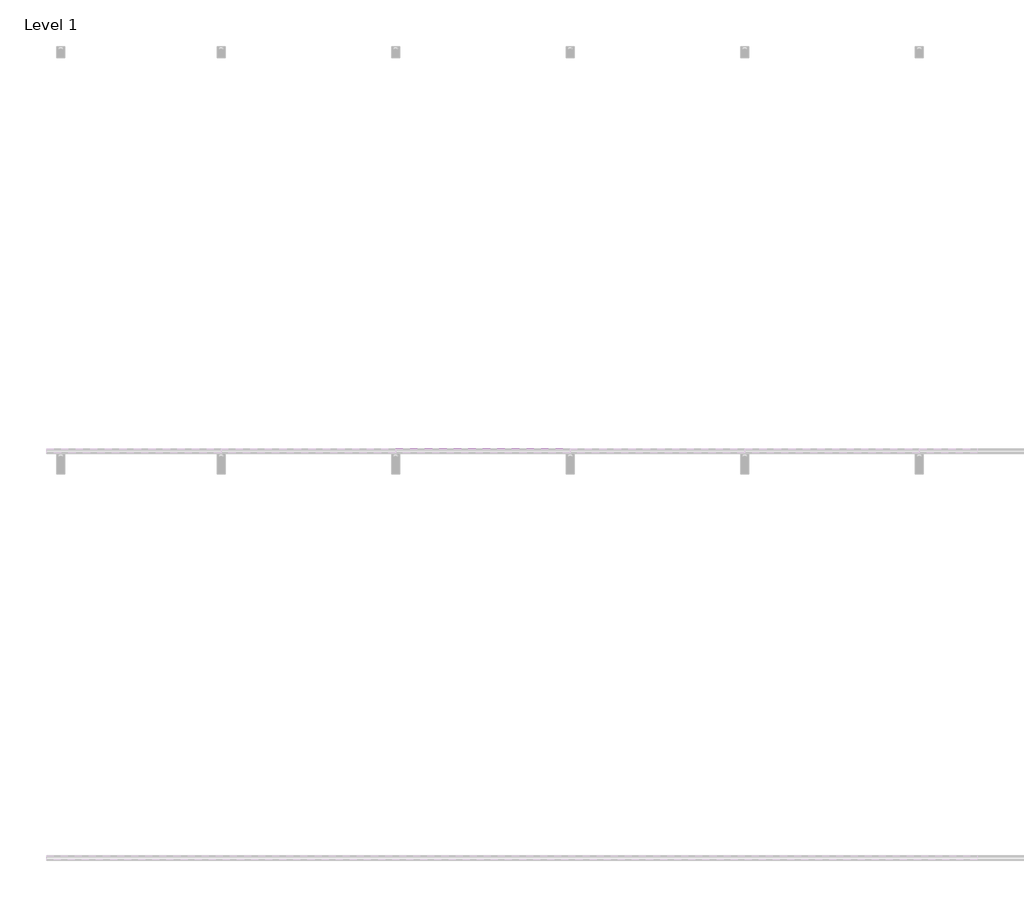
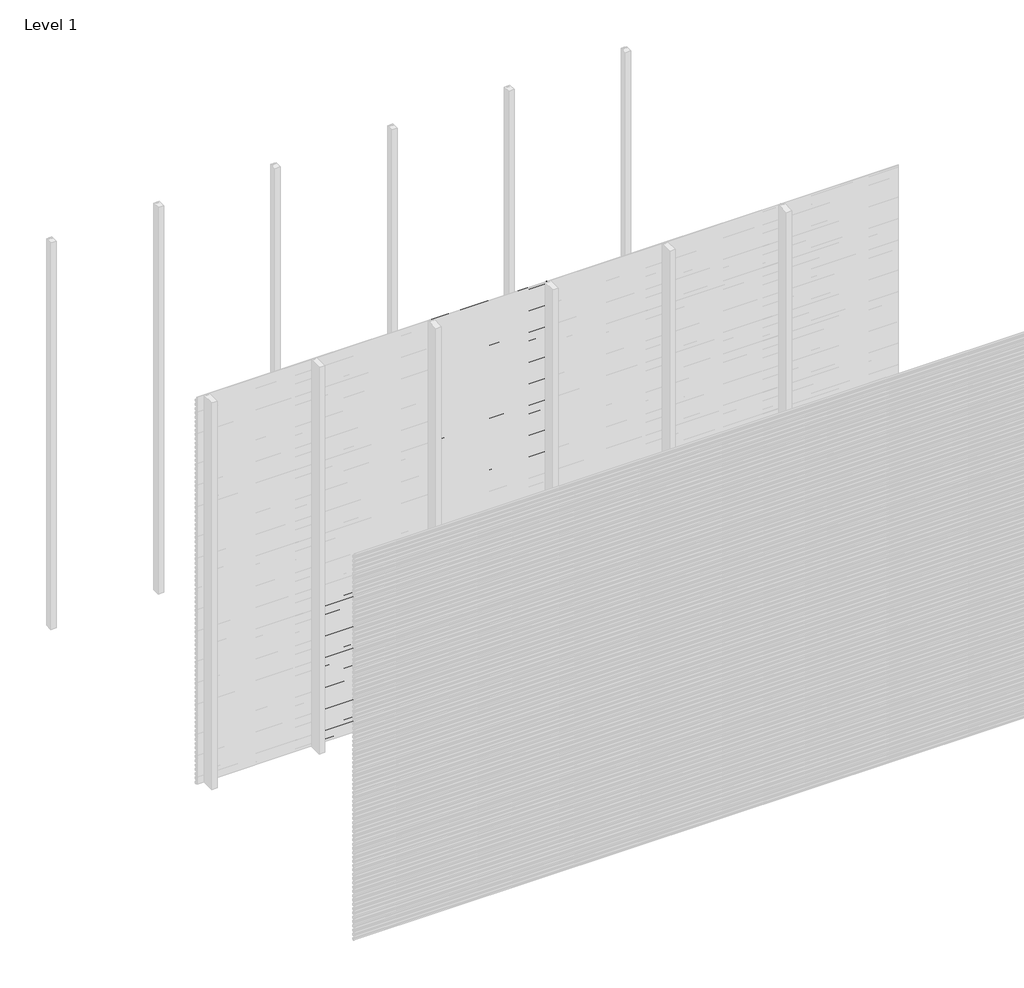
# One storey, part 35 of 96: 77 proxies.
"""IFC4 building model written with IfcOpenShell, lengths in millimetres."""

import ifcopenshell
import ifcopenshell.guid

model = None  # the IFC model being written
_history = None  # IfcOwnerHistory: only IFC2X3 demands one
_inside = {}  # id of a spatial element -> (the spatial element, [elements in it])
_under = {}  # id of a project, library or spatial element -> (it, [spatial elements below it])
_declared = {}  # id of a project -> (the project, [libraries it declares])
_typed = {}  # id of a type object -> (the type object, [elements of that type])
_made_of = {}  # id of a material, layer set ... -> (it, [elements and type objects made of it])


def new_model(schema):
    """Start an empty IFC model of exactly this schema.

    Asked for "IFC4X3", IfcOpenShell would pick the latest addendum, in which some entities
    have other attributes; the version numbers below select the first issue.
    IFC2X3 requires an IfcOwnerHistory on every rooted entity: one is made here for all.
    """
    global model, _history
    if schema == "IFC4X3":
        model = ifcopenshell.file(schema_version=(4, 3, 0, 0))
    else:
        model = ifcopenshell.file(schema=schema)
    _inside.clear()
    _under.clear()
    _declared.clear()
    _typed.clear()
    _made_of.clear()
    _history = None
    if model.schema == "IFC2X3":
        org = make("IfcOrganization", Name="unknown")
        user = make(
            "IfcPersonAndOrganization",
            ThePerson=make("IfcPerson", FamilyName="unknown"),
            TheOrganization=org,
        )
        app = make(
            "IfcApplication",
            ApplicationDeveloper=org,
            Version="unknown",
            ApplicationFullName="unknown",
            ApplicationIdentifier="unknown",
        )
        _history = make(
            "IfcOwnerHistory",
            OwningUser=user,
            OwningApplication=app,
            ChangeAction="ADDED",
            CreationDate=0,
        )
    return model


def make(cls, **values):
    """One entity of the class cls with the attributes given. An attribute that is None is left unset."""
    return model.create_entity(
        cls, **{name: value for name, value in values.items() if value is not None}
    )


def rooted(cls, **values):
    """An entity with a GlobalId (a new one), such as an element, a storey or a relation."""
    return make(cls, GlobalId=ifcopenshell.guid.new(), OwnerHistory=_history, **values)


def si_unit(unit_type, name, prefix=None):
    """IfcSIUnit, for example si_unit("LENGTHUNIT", "METRE", prefix="MILLI")."""
    return make("IfcSIUnit", UnitType=unit_type, Prefix=prefix, Name=name)


def assignment(units):
    """IfcUnitAssignment: the units of a project."""
    return None if units is None else make("IfcUnitAssignment", Units=units)


def point(xyz):
    """IfcCartesianPoint."""
    return None if xyz is None else make("IfcCartesianPoint", Coordinates=xyz)


def direction(xyz):
    """IfcDirection."""
    return None if xyz is None else make("IfcDirection", DirectionRatios=xyz)


def frame(location, z_axis=None, x_axis=None):
    """IfcAxis2Placement3D, a coordinate frame: its origin and axes. An axis left out is left unset."""
    return make(
        "IfcAxis2Placement3D",
        Location=point(location),
        Axis=direction(z_axis),
        RefDirection=direction(x_axis),
    )


def origin():
    """The frame at (0, 0, 0) with its axes left unset."""
    return frame((0.0, 0.0, 0.0))


def place(relative_to, where):
    """IfcLocalPlacement: puts the frame where relative to a parent placement (None: the world)."""
    return make(
        "IfcLocalPlacement", PlacementRelTo=relative_to, RelativePlacement=where
    )


def context(
    kind, dimensions, precision=None, world=None, true_north=None, identifier=None
):
    """IfcGeometricRepresentationContext, for example the 3D "Model" context."""
    return make(
        "IfcGeometricRepresentationContext",
        ContextIdentifier=identifier,
        ContextType=kind,
        CoordinateSpaceDimension=dimensions,
        Precision=precision,
        WorldCoordinateSystem=world,
        TrueNorth=true_north,
    )


def project(units=None, contexts=None):
    """IfcProject with its units and contexts."""
    return rooted(
        "IfcProject",
        Name="project",
        RepresentationContexts=contexts,
        UnitsInContext=assignment(units),
    )


def spatial(cls, under=None, at=None, **own):
    """A site, building, storey or space (cls), placed at a placement, below another one or the project."""
    s = rooted(cls, ObjectPlacement=at, **own)
    if under is not None:
        _under.setdefault(under.id(), (under, []))[1].append(s)
    return s


def polyline(points):
    """IfcPolyline through the points."""
    return make("IfcPolyline", Points=[point(p) for p in points])


def outline(outer, holes=None, kind="AREA"):
    """IfcArbitraryClosedProfileDef: a profile drawn as a closed curve; with holes, ...WithVoids."""
    if holes is None:
        return make("IfcArbitraryClosedProfileDef", ProfileType=kind, OuterCurve=outer)
    return make(
        "IfcArbitraryProfileDefWithVoids",
        ProfileType=kind,
        OuterCurve=outer,
        InnerCurves=holes,
    )


def extrude(swept, where, along, depth):
    """IfcExtrudedAreaSolid: the profile swept, set in the frame where, extruded along a direction by depth."""
    return make(
        "IfcExtrudedAreaSolid",
        SweptArea=swept,
        Position=where,
        ExtrudedDirection=direction(along),
        Depth=depth,
    )


def shape(context_of_items, identifier, shape_type, items):
    """IfcShapeRepresentation: the items that make up one representation, for example the "Body"."""
    return make(
        "IfcShapeRepresentation",
        ContextOfItems=context_of_items,
        RepresentationIdentifier=identifier,
        RepresentationType=shape_type,
        Items=items,
    )


def made_of(thing, what):
    """Note that an element or type object is made of a material, layer set ...; save() writes the relation."""
    if what is not None:
        _made_of.setdefault(what.id(), (what, []))[1].append(thing)
    return thing


def element(
    cls,
    number,
    at=None,
    inside=None,
    cuts=None,
    type_object=None,
    material=None,
    context=None,
    identifier="Body",
    shape_type=None,
    held_by="IfcProductDefinitionShape",
    body=None,
    shapes=None,
    **own,
):
    """One element of the class cls, such as IfcWall. Its Tag is "e" and its number.

    at: its placement. inside: the storey or other place that contains it. cuts: it is an
    opening in that element (IfcRelVoidsElement). A single representation is given by context,
    identifier, shape_type and body (its items); several are given by shapes. held_by: the class
    of the entity that holds the representations. save() writes the other relations.
    """
    e = rooted(cls, Tag="e%d" % number, ObjectPlacement=at, **own)
    if body is not None:
        shapes = [shape(context, identifier, shape_type, body)]
    if shapes is not None:
        e.Representation = make(held_by, Representations=shapes)
    if inside is not None:
        _inside.setdefault(inside.id(), (inside, []))[1].append(e)
    if cuts is not None:
        rooted(
            "IfcRelVoidsElement", RelatingBuildingElement=cuts, RelatedOpeningElement=e
        )
    if type_object is not None:
        _typed.setdefault(type_object.id(), (type_object, []))[1].append(e)
    return made_of(e, material)


def aggregate(whole, parts):
    """IfcRelAggregates: a whole, such as a stair, and the parts it consists of."""
    return rooted("IfcRelAggregates", RelatingObject=whole, RelatedObjects=parts)


def save(model, path):
    """Write the relations noted so far, then the file.

    IfcRelAggregates (storeys below a building ...), IfcRelContainedInSpatialStructure (elements
    in a storey), IfcRelDefinesByType, IfcRelAssociatesMaterial and IfcRelDeclares: one each for
    every whole, place, type object, material and project.
    """
    for whole, parts in _under.values():
        aggregate(whole, parts)
    for where, things in _inside.values():
        rooted(
            "IfcRelContainedInSpatialStructure",
            RelatedElements=things,
            RelatingStructure=where,
        )
    for kind, things in _typed.values():
        rooted("IfcRelDefinesByType", RelatedObjects=things, RelatingType=kind)
    for what, things in _made_of.values():
        rooted("IfcRelAssociatesMaterial", RelatedObjects=things, RelatingMaterial=what)
    for by, libraries in _declared.values():
        rooted("IfcRelDeclares", RelatingContext=by, RelatedDefinitions=libraries)
    model.write(path)


model = new_model("IFC4")

# Units and contexts
model_context = context("Model", 3, world=origin())
ifc_project = project(units=[si_unit("LENGTHUNIT", "METRE", prefix="MILLI")], contexts=[model_context])

# Site, building, storey
site = spatial("IfcSite", under=ifc_project)
building = spatial("IfcBuilding", under=site)
storey = spatial("IfcBuildingStorey", under=building, Name="Level 1", Elevation=0.0)

# Proxies
placement = place(None, origin())
element("IfcBuildingElementProxy", 1, Name="Wall Sweeps", at=placement, inside=storey, context=model_context, shape_type="SweptSolid", body=[
    extrude(outline(polyline([(-35977.6, 1140.2655033), (-35977.6, 1125.9779188), (-35982.4114965, 1123.2), (-35982.4114965, 1124.4701706), (-35978.85, 1126.5264016), (-35978.85, 1139.5437382), (-35998.0, 1150.6000799), (-35998.0, 1165.5), (-35996.75, 1165.5), (-35996.75, 1151.3217609), (-35977.6, 1140.2655033)])), frame((857.1428571, 0.0, 0.0), z_axis=(1.0, 0.0, 0.0), x_axis=(0.0, 1.0, 0.0)), (0.0, 0.0, 1.0), 857.1428571),
])
element("IfcBuildingElementProxy", 2, Name="Wall Sweeps", at=placement, inside=storey, context=model_context, shape_type="SweptSolid", body=[
    extrude(outline(polyline([(-35977.6, 1106.9655033), (-35977.6, 1092.6779188), (-35982.4114965, 1089.9), (-35982.4114965, 1091.1701706), (-35978.85, 1093.2264016), (-35978.85, 1106.2437382), (-35998.0, 1117.3000799), (-35998.0, 1132.2), (-35996.75, 1132.2), (-35996.75, 1118.0217609), (-35977.6, 1106.9655033)])), frame((857.1428571, 0.0, 0.0), z_axis=(1.0, 0.0, 0.0), x_axis=(0.0, 1.0, 0.0)), (0.0, 0.0, 1.0), 857.1428571),
])
element("IfcBuildingElementProxy", 3, Name="Wall Sweeps", at=placement, inside=storey, context=model_context, shape_type="SweptSolid", body=[
    extrude(outline(polyline([(-35977.6, 1073.6655033), (-35977.6, 1059.3779188), (-35982.4114965, 1056.6), (-35982.4114965, 1057.8701706), (-35978.85, 1059.9264016), (-35978.85, 1072.9437382), (-35998.0, 1084.0000799), (-35998.0, 1098.9), (-35996.75, 1098.9), (-35996.75, 1084.7217609), (-35977.6, 1073.6655033)])), frame((857.1428571, 0.0, 0.0), z_axis=(1.0, 0.0, 0.0), x_axis=(0.0, 1.0, 0.0)), (0.0, 0.0, 1.0), 857.1428571),
])
element("IfcBuildingElementProxy", 4, Name="Wall Sweeps", at=placement, inside=storey, context=model_context, shape_type="SweptSolid", body=[
    extrude(outline(polyline([(-35977.6, 1040.3655033), (-35977.6, 1026.0779188), (-35982.4114965, 1023.3), (-35982.4114965, 1024.5701706), (-35978.85, 1026.6264016), (-35978.85, 1039.6437382), (-35998.0, 1050.7000799), (-35998.0, 1065.6), (-35996.75, 1065.6), (-35996.75, 1051.4217609), (-35977.6, 1040.3655033)])), frame((857.1428571, 0.0, 0.0), z_axis=(1.0, 0.0, 0.0), x_axis=(0.0, 1.0, 0.0)), (0.0, 0.0, 1.0), 857.1428571),
])
element("IfcBuildingElementProxy", 5, Name="Wall Sweeps", at=placement, inside=storey, context=model_context, shape_type="SweptSolid", body=[
    extrude(outline(polyline([(-35977.6, 1007.0655033), (-35977.6, 992.7779188), (-35982.4114965, 990.0), (-35982.4114965, 991.2701706), (-35978.85, 993.3264016), (-35978.85, 1006.3437382), (-35998.0, 1017.4000799), (-35998.0, 1032.3), (-35996.75, 1032.3), (-35996.75, 1018.1217609), (-35977.6, 1007.0655033)])), frame((857.1428571, 0.0, 0.0), z_axis=(1.0, 0.0, 0.0), x_axis=(0.0, 1.0, 0.0)), (0.0, 0.0, 1.0), 857.1428571),
])
element("IfcBuildingElementProxy", 6, Name="Wall Sweeps", at=placement, inside=storey, context=model_context, shape_type="SweptSolid", body=[
    extrude(outline(polyline([(-35977.6, 973.7655033), (-35977.6, 959.4779188), (-35982.4114965, 956.7), (-35982.4114965, 957.9701706), (-35978.85, 960.0264016), (-35978.85, 973.0437382), (-35998.0, 984.1000799), (-35998.0, 999.0), (-35996.75, 999.0), (-35996.75, 984.8217609), (-35977.6, 973.7655033)])), frame((857.1428571, 0.0, 0.0), z_axis=(1.0, 0.0, 0.0), x_axis=(0.0, 1.0, 0.0)), (0.0, 0.0, 1.0), 857.1428571),
])
element("IfcBuildingElementProxy", 7, Name="Wall Sweeps", at=placement, inside=storey, context=model_context, shape_type="SweptSolid", body=[
    extrude(outline(polyline([(-35977.6, 940.4655033), (-35977.6, 926.1779188), (-35982.4114965, 923.4), (-35982.4114965, 924.6701706), (-35978.85, 926.7264016), (-35978.85, 939.7437382), (-35998.0, 950.8000799), (-35998.0, 965.7), (-35996.75, 965.7), (-35996.75, 951.5217609), (-35977.6, 940.4655033)])), frame((857.1428571, 0.0, 0.0), z_axis=(1.0, 0.0, 0.0), x_axis=(0.0, 1.0, 0.0)), (0.0, 0.0, 1.0), 857.1428571),
])
element("IfcBuildingElementProxy", 8, Name="Wall Sweeps", at=placement, inside=storey, context=model_context, shape_type="SweptSolid", body=[
    extrude(outline(polyline([(-35977.6, 907.1655033), (-35977.6, 892.8779188), (-35982.4114965, 890.1), (-35982.4114965, 891.3701706), (-35978.85, 893.4264016), (-35978.85, 906.4437382), (-35998.0, 917.5000799), (-35998.0, 932.4), (-35996.75, 932.4), (-35996.75, 918.2217609), (-35977.6, 907.1655033)])), frame((857.1428571, 0.0, 0.0), z_axis=(1.0, 0.0, 0.0), x_axis=(0.0, 1.0, 0.0)), (0.0, 0.0, 1.0), 857.1428571),
])
element("IfcBuildingElementProxy", 9, Name="Wall Sweeps", at=placement, inside=storey, context=model_context, shape_type="SweptSolid", body=[
    extrude(outline(polyline([(-35977.6, 873.8655033), (-35977.6, 859.5779188), (-35982.4114965, 856.8), (-35982.4114965, 858.0701706), (-35978.85, 860.1264016), (-35978.85, 873.1437382), (-35998.0, 884.2000799), (-35998.0, 899.1), (-35996.75, 899.1), (-35996.75, 884.9217609), (-35977.6, 873.8655033)])), frame((857.1428571, 0.0, 0.0), z_axis=(1.0, 0.0, 0.0), x_axis=(0.0, 1.0, 0.0)), (0.0, 0.0, 1.0), 857.1428571),
])
element("IfcBuildingElementProxy", 10, Name="Wall Sweeps", at=placement, inside=storey, context=model_context, shape_type="SweptSolid", body=[
    extrude(outline(polyline([(-35977.6, 840.5655033), (-35977.6, 826.2779188), (-35982.4114965, 823.5), (-35982.4114965, 824.7701706), (-35978.85, 826.8264016), (-35978.85, 839.8437382), (-35998.0, 850.9000799), (-35998.0, 865.8), (-35996.75, 865.8), (-35996.75, 851.6217609), (-35977.6, 840.5655033)])), frame((857.1428571, 0.0, 0.0), z_axis=(1.0, 0.0, 0.0), x_axis=(0.0, 1.0, 0.0)), (0.0, 0.0, 1.0), 857.1428571),
])
element("IfcBuildingElementProxy", 11, Name="Wall Sweeps", at=placement, inside=storey, context=model_context, shape_type="SweptSolid", body=[
    extrude(outline(polyline([(-35977.6, 807.2655033), (-35977.6, 792.9779188), (-35982.4114965, 790.2), (-35982.4114965, 791.4701706), (-35978.85, 793.5264016), (-35978.85, 806.5437382), (-35998.0, 817.6000799), (-35998.0, 832.5), (-35996.75, 832.5), (-35996.75, 818.3217609), (-35977.6, 807.2655033)])), frame((857.1428571, 0.0, 0.0), z_axis=(1.0, 0.0, 0.0), x_axis=(0.0, 1.0, 0.0)), (0.0, 0.0, 1.0), 857.1428571),
])
element("IfcBuildingElementProxy", 12, Name="Wall Sweeps", at=placement, inside=storey, context=model_context, shape_type="SweptSolid", body=[
    extrude(outline(polyline([(-35977.6, 773.9655033), (-35977.6, 759.6779188), (-35982.4114965, 756.9), (-35982.4114965, 758.1701706), (-35978.85, 760.2264016), (-35978.85, 773.2437382), (-35998.0, 784.3000799), (-35998.0, 799.2), (-35996.75, 799.2), (-35996.75, 785.0217609), (-35977.6, 773.9655033)])), frame((857.1428571, 0.0, 0.0), z_axis=(1.0, 0.0, 0.0), x_axis=(0.0, 1.0, 0.0)), (0.0, 0.0, 1.0), 857.1428571),
])
element("IfcBuildingElementProxy", 13, Name="Wall Sweeps", at=placement, inside=storey, context=model_context, shape_type="SweptSolid", body=[
    extrude(outline(polyline([(-35977.6, 740.6655033), (-35977.6, 726.3779188), (-35982.4114965, 723.6), (-35982.4114965, 724.8701706), (-35978.85, 726.9264016), (-35978.85, 739.9437382), (-35998.0, 751.0000799), (-35998.0, 765.9), (-35996.75, 765.9), (-35996.75, 751.7217609), (-35977.6, 740.6655033)])), frame((857.1428571, 0.0, 0.0), z_axis=(1.0, 0.0, 0.0), x_axis=(0.0, 1.0, 0.0)), (0.0, 0.0, 1.0), 857.1428571),
])
element("IfcBuildingElementProxy", 14, Name="Wall Sweeps", at=placement, inside=storey, context=model_context, shape_type="SweptSolid", body=[
    extrude(outline(polyline([(-35977.6, 707.3655033), (-35977.6, 693.0779188), (-35982.4114965, 690.3), (-35982.4114965, 691.5701706), (-35978.85, 693.6264016), (-35978.85, 706.6437382), (-35998.0, 717.7000799), (-35998.0, 732.6), (-35996.75, 732.6), (-35996.75, 718.4217609), (-35977.6, 707.3655033)])), frame((857.1428571, 0.0, 0.0), z_axis=(1.0, 0.0, 0.0), x_axis=(0.0, 1.0, 0.0)), (0.0, 0.0, 1.0), 857.1428571),
])
element("IfcBuildingElementProxy", 15, Name="Wall Sweeps", at=placement, inside=storey, context=model_context, shape_type="SweptSolid", body=[
    extrude(outline(polyline([(-35977.6, 674.0655033), (-35977.6, 659.7779188), (-35982.4114965, 657.0), (-35982.4114965, 658.2701706), (-35978.85, 660.3264016), (-35978.85, 673.3437382), (-35998.0, 684.4000799), (-35998.0, 699.3), (-35996.75, 699.3), (-35996.75, 685.1217609), (-35977.6, 674.0655033)])), frame((857.1428571, 0.0, 0.0), z_axis=(1.0, 0.0, 0.0), x_axis=(0.0, 1.0, 0.0)), (0.0, 0.0, 1.0), 857.1428571),
])
element("IfcBuildingElementProxy", 16, Name="Wall Sweeps", at=placement, inside=storey, context=model_context, shape_type="SweptSolid", body=[
    extrude(outline(polyline([(-35977.6, 640.7655033), (-35977.6, 626.4779188), (-35982.4114965, 623.7), (-35982.4114965, 624.9701706), (-35978.85, 627.0264016), (-35978.85, 640.0437382), (-35998.0, 651.1000799), (-35998.0, 666.0), (-35996.75, 666.0), (-35996.75, 651.8217609), (-35977.6, 640.7655033)])), frame((857.1428571, 0.0, 0.0), z_axis=(1.0, 0.0, 0.0), x_axis=(0.0, 1.0, 0.0)), (0.0, 0.0, 1.0), 857.1428571),
])
element("IfcBuildingElementProxy", 17, Name="Wall Sweeps", at=placement, inside=storey, context=model_context, shape_type="SweptSolid", body=[
    extrude(outline(polyline([(-35977.6, 607.4655033), (-35977.6, 593.1779188), (-35982.4114965, 590.4), (-35982.4114965, 591.6701706), (-35978.85, 593.7264016), (-35978.85, 606.7437382), (-35998.0, 617.8000799), (-35998.0, 632.7), (-35996.75, 632.7), (-35996.75, 618.5217609), (-35977.6, 607.4655033)])), frame((857.1428571, 0.0, 0.0), z_axis=(1.0, 0.0, 0.0), x_axis=(0.0, 1.0, 0.0)), (0.0, 0.0, 1.0), 857.1428571),
])
element("IfcBuildingElementProxy", 18, Name="Wall Sweeps", at=placement, inside=storey, context=model_context, shape_type="SweptSolid", body=[
    extrude(outline(polyline([(-35977.6, 574.1655033), (-35977.6, 559.8779188), (-35982.4114965, 557.1), (-35982.4114965, 558.3701706), (-35978.85, 560.4264016), (-35978.85, 573.4437382), (-35998.0, 584.5000799), (-35998.0, 599.4), (-35996.75, 599.4), (-35996.75, 585.2217609), (-35977.6, 574.1655033)])), frame((857.1428571, 0.0, 0.0), z_axis=(1.0, 0.0, 0.0), x_axis=(0.0, 1.0, 0.0)), (0.0, 0.0, 1.0), 857.1428571),
])
element("IfcBuildingElementProxy", 19, Name="Wall Sweeps", at=placement, inside=storey, context=model_context, shape_type="SweptSolid", body=[
    extrude(outline(polyline([(-35977.6, 540.8655033), (-35977.6, 526.5779188), (-35982.4114965, 523.8), (-35982.4114965, 525.0701706), (-35978.85, 527.1264016), (-35978.85, 540.1437382), (-35998.0, 551.2000799), (-35998.0, 566.1), (-35996.75, 566.1), (-35996.75, 551.9217609), (-35977.6, 540.8655033)])), frame((857.1428571, 0.0, 0.0), z_axis=(1.0, 0.0, 0.0), x_axis=(0.0, 1.0, 0.0)), (0.0, 0.0, 1.0), 857.1428571),
])
element("IfcBuildingElementProxy", 20, Name="Wall Sweeps", at=placement, inside=storey, context=model_context, shape_type="SweptSolid", body=[
    extrude(outline(polyline([(-35977.6, 507.5655033), (-35977.6, 493.2779188), (-35982.4114965, 490.5), (-35982.4114965, 491.7701706), (-35978.85, 493.8264016), (-35978.85, 506.8437382), (-35998.0, 517.9000799), (-35998.0, 532.8), (-35996.75, 532.8), (-35996.75, 518.6217609), (-35977.6, 507.5655033)])), frame((857.1428571, 0.0, 0.0), z_axis=(1.0, 0.0, 0.0), x_axis=(0.0, 1.0, 0.0)), (0.0, 0.0, 1.0), 857.1428571),
])
element("IfcBuildingElementProxy", 21, Name="Wall Sweeps", at=placement, inside=storey, context=model_context, shape_type="SweptSolid", body=[
    extrude(outline(polyline([(-35977.6, 474.2655033), (-35977.6, 459.9779188), (-35982.4114965, 457.2), (-35982.4114965, 458.4701706), (-35978.85, 460.5264016), (-35978.85, 473.5437382), (-35998.0, 484.6000799), (-35998.0, 499.5), (-35996.75, 499.5), (-35996.75, 485.3217609), (-35977.6, 474.2655033)])), frame((857.1428571, 0.0, 0.0), z_axis=(1.0, 0.0, 0.0), x_axis=(0.0, 1.0, 0.0)), (0.0, 0.0, 1.0), 857.1428571),
])
element("IfcBuildingElementProxy", 22, Name="Wall Sweeps", at=placement, inside=storey, context=model_context, shape_type="SweptSolid", body=[
    extrude(outline(polyline([(-35977.6, 440.9655033), (-35977.6, 426.6779188), (-35982.4114965, 423.9), (-35982.4114965, 425.1701706), (-35978.85, 427.2264016), (-35978.85, 440.2437382), (-35998.0, 451.3000799), (-35998.0, 466.2), (-35996.75, 466.2), (-35996.75, 452.0217609), (-35977.6, 440.9655033)])), frame((857.1428571, 0.0, 0.0), z_axis=(1.0, 0.0, 0.0), x_axis=(0.0, 1.0, 0.0)), (0.0, 0.0, 1.0), 857.1428571),
])
element("IfcBuildingElementProxy", 23, Name="Wall Sweeps", at=placement, inside=storey, context=model_context, shape_type="SweptSolid", body=[
    extrude(outline(polyline([(-35977.6, 407.6655033), (-35977.6, 393.3779188), (-35982.4114965, 390.6), (-35982.4114965, 391.8701706), (-35978.85, 393.9264016), (-35978.85, 406.9437382), (-35998.0, 418.0000799), (-35998.0, 432.9), (-35996.75, 432.9), (-35996.75, 418.7217609), (-35977.6, 407.6655033)])), frame((857.1428571, 0.0, 0.0), z_axis=(1.0, 0.0, 0.0), x_axis=(0.0, 1.0, 0.0)), (0.0, 0.0, 1.0), 857.1428571),
])
element("IfcBuildingElementProxy", 24, Name="Wall Sweeps", at=placement, inside=storey, context=model_context, shape_type="SweptSolid", body=[
    extrude(outline(polyline([(-35977.6, 374.3655033), (-35977.6, 360.0779188), (-35982.4114965, 357.3), (-35982.4114965, 358.5701706), (-35978.85, 360.6264016), (-35978.85, 373.6437382), (-35998.0, 384.7000799), (-35998.0, 399.6), (-35996.75, 399.6), (-35996.75, 385.4217609), (-35977.6, 374.3655033)])), frame((857.1428571, 0.0, 0.0), z_axis=(1.0, 0.0, 0.0), x_axis=(0.0, 1.0, 0.0)), (0.0, 0.0, 1.0), 857.1428571),
])
element("IfcBuildingElementProxy", 25, Name="Wall Sweeps", at=placement, inside=storey, context=model_context, shape_type="SweptSolid", body=[
    extrude(outline(polyline([(-35977.6, 341.0655033), (-35977.6, 326.7779188), (-35982.4114965, 324.0), (-35982.4114965, 325.2701706), (-35978.85, 327.3264016), (-35978.85, 340.3437382), (-35998.0, 351.4000799), (-35998.0, 366.3), (-35996.75, 366.3), (-35996.75, 352.1217609), (-35977.6, 341.0655033)])), frame((857.1428571, 0.0, 0.0), z_axis=(1.0, 0.0, 0.0), x_axis=(0.0, 1.0, 0.0)), (0.0, 0.0, 1.0), 857.1428571),
])
element("IfcBuildingElementProxy", 26, Name="Wall Sweeps", at=placement, inside=storey, context=model_context, shape_type="SweptSolid", body=[
    extrude(outline(polyline([(-35977.6, 307.7655033), (-35977.6, 293.4779188), (-35982.4114965, 290.7), (-35982.4114965, 291.9701706), (-35978.85, 294.0264016), (-35978.85, 307.0437382), (-35998.0, 318.1000799), (-35998.0, 333.0), (-35996.75, 333.0), (-35996.75, 318.8217609), (-35977.6, 307.7655033)])), frame((857.1428571, 0.0, 0.0), z_axis=(1.0, 0.0, 0.0), x_axis=(0.0, 1.0, 0.0)), (0.0, 0.0, 1.0), 857.1428571),
])
element("IfcBuildingElementProxy", 27, Name="Wall Sweeps", at=placement, inside=storey, context=model_context, shape_type="SweptSolid", body=[
    extrude(outline(polyline([(-35977.6, 274.4655033), (-35977.6, 260.1779188), (-35982.4114965, 257.4), (-35982.4114965, 258.6701706), (-35978.85, 260.7264016), (-35978.85, 273.7437382), (-35998.0, 284.8000799), (-35998.0, 299.7), (-35996.75, 299.7), (-35996.75, 285.5217609), (-35977.6, 274.4655033)])), frame((857.1428571, 0.0, 0.0), z_axis=(1.0, 0.0, 0.0), x_axis=(0.0, 1.0, 0.0)), (0.0, 0.0, 1.0), 857.1428571),
])
element("IfcBuildingElementProxy", 28, Name="Wall Sweeps", at=placement, inside=storey, context=model_context, shape_type="SweptSolid", body=[
    extrude(outline(polyline([(-35977.6, 241.1655033), (-35977.6, 226.8779188), (-35982.4114965, 224.1), (-35982.4114965, 225.3701706), (-35978.85, 227.4264016), (-35978.85, 240.4437382), (-35998.0, 251.5000799), (-35998.0, 266.4), (-35996.75, 266.4), (-35996.75, 252.2217609), (-35977.6, 241.1655033)])), frame((857.1428571, 0.0, 0.0), z_axis=(1.0, 0.0, 0.0), x_axis=(0.0, 1.0, 0.0)), (0.0, 0.0, 1.0), 857.1428571),
])
element("IfcBuildingElementProxy", 29, Name="Wall Sweeps", at=placement, inside=storey, context=model_context, shape_type="SweptSolid", body=[
    extrude(outline(polyline([(-35977.6, 207.8655033), (-35977.6, 193.5779188), (-35982.4114965, 190.8), (-35982.4114965, 192.0701706), (-35978.85, 194.1264016), (-35978.85, 207.1437382), (-35998.0, 218.2000799), (-35998.0, 233.1), (-35996.75, 233.1), (-35996.75, 218.9217609), (-35977.6, 207.8655033)])), frame((857.1428571, 0.0, 0.0), z_axis=(1.0, 0.0, 0.0), x_axis=(0.0, 1.0, 0.0)), (0.0, 0.0, 1.0), 857.1428571),
])
element("IfcBuildingElementProxy", 30, Name="Wall Sweeps", at=placement, inside=storey, context=model_context, shape_type="SweptSolid", body=[
    extrude(outline(polyline([(-35977.6, 174.5655033), (-35977.6, 160.2779188), (-35982.4114965, 157.5), (-35982.4114965, 158.7701706), (-35978.85, 160.8264016), (-35978.85, 173.8437382), (-35998.0, 184.9000799), (-35998.0, 199.8), (-35996.75, 199.8), (-35996.75, 185.6217609), (-35977.6, 174.5655033)])), frame((857.1428571, 0.0, 0.0), z_axis=(1.0, 0.0, 0.0), x_axis=(0.0, 1.0, 0.0)), (0.0, 0.0, 1.0), 857.1428571),
])
element("IfcBuildingElementProxy", 31, Name="Wall Sweeps", at=placement, inside=storey, context=model_context, shape_type="SweptSolid", body=[
    extrude(outline(polyline([(-35977.6, 141.2655033), (-35977.6, 126.9779188), (-35982.4114965, 124.2), (-35982.4114965, 125.4701706), (-35978.85, 127.5264016), (-35978.85, 140.5437382), (-35998.0, 151.6000799), (-35998.0, 166.5), (-35996.75, 166.5), (-35996.75, 152.3217609), (-35977.6, 141.2655033)])), frame((857.1428571, 0.0, 0.0), z_axis=(1.0, 0.0, 0.0), x_axis=(0.0, 1.0, 0.0)), (0.0, 0.0, 1.0), 857.1428571),
])
element("IfcBuildingElementProxy", 32, Name="Wall Sweeps", at=placement, inside=storey, context=model_context, shape_type="SweptSolid", body=[
    extrude(outline(polyline([(-35977.6, 107.9655033), (-35977.6, 93.6779188), (-35982.4114965, 90.9), (-35982.4114965, 92.1701706), (-35978.85, 94.2264016), (-35978.85, 107.2437382), (-35998.0, 118.3000799), (-35998.0, 133.2), (-35996.75, 133.2), (-35996.75, 119.0217609), (-35977.6, 107.9655033)])), frame((857.1428571, 0.0, 0.0), z_axis=(1.0, 0.0, 0.0), x_axis=(0.0, 1.0, 0.0)), (0.0, 0.0, 1.0), 857.1428571),
])
element("IfcBuildingElementProxy", 33, Name="Wall Sweeps", at=placement, inside=storey, context=model_context, shape_type="SweptSolid", body=[
    extrude(outline(polyline([(-35977.6, 74.6655033), (-35977.6, 60.3779188), (-35982.4114965, 57.6), (-35982.4114965, 58.8701706), (-35978.85, 60.9264016), (-35978.85, 73.9437382), (-35998.0, 85.0000799), (-35998.0, 99.9), (-35996.75, 99.9), (-35996.75, 85.7217609), (-35977.6, 74.6655033)])), frame((857.1428571, 0.0, 0.0), z_axis=(1.0, 0.0, 0.0), x_axis=(0.0, 1.0, 0.0)), (0.0, 0.0, 1.0), 857.1428571),
])
element("IfcBuildingElementProxy", 34, Name="Wall Sweeps", at=placement, inside=storey, context=model_context, shape_type="SweptSolid", body=[
    extrude(outline(polyline([(-35977.6, 41.3655033), (-35977.6, 27.0779188), (-35982.4114965, 24.3), (-35982.4114965, 25.5701706), (-35978.85, 27.6264016), (-35978.85, 40.6437382), (-35998.0, 51.7000799), (-35998.0, 66.6), (-35996.75, 66.6), (-35996.75, 52.4217609), (-35977.6, 41.3655033)])), frame((857.1428571, 0.0, 0.0), z_axis=(1.0, 0.0, 0.0), x_axis=(0.0, 1.0, 0.0)), (0.0, 0.0, 1.0), 857.1428571),
])
element("IfcBuildingElementProxy", 35, Name="Wall Sweeps", at=placement, inside=storey, context=model_context, shape_type="SweptSolid", body=[
    extrude(outline(polyline([(-35977.6, 8.0655033), (-35977.6, -6.2220812), (-35982.4114965, -9.0), (-35982.4114965, -7.7298294), (-35978.85, -5.6735984), (-35978.85, 7.3437382), (-35998.0, 18.4000799), (-35998.0, 33.3), (-35996.75, 33.3), (-35996.75, 19.1217609), (-35977.6, 8.0655033)])), frame((857.1428571, 0.0, 0.0), z_axis=(1.0, 0.0, 0.0), x_axis=(0.0, 1.0, 0.0)), (0.0, 0.0, 1.0), 857.1428571),
])
element("IfcBuildingElementProxy", 36, Name="Wall Sweeps", at=placement, inside=storey, context=model_context, shape_type="SweptSolid", body=[
    extrude(outline(polyline([(-35977.6, 2971.7655033), (-35977.6, 2957.4779188), (-35982.4114965, 2954.7), (-35982.4114965, 2955.9701706), (-35978.85, 2958.0264016), (-35978.85, 2971.0437382), (-35998.0, 2982.1000799), (-35998.0, 2997.0), (-35996.75, 2997.0), (-35996.75, 2982.8217609), (-35977.6, 2971.7655033)])), frame((1714.2857143, 0.0, 0.0), z_axis=(1.0, 0.0, 0.0), x_axis=(0.0, 1.0, 0.0)), (0.0, 0.0, 1.0), 857.1428571),
])
element("IfcBuildingElementProxy", 37, Name="Wall Sweeps", at=placement, inside=storey, context=model_context, shape_type="SweptSolid", body=[
    extrude(outline(polyline([(-35977.6, 2938.4655033), (-35977.6, 2924.1779188), (-35982.4114965, 2921.4), (-35982.4114965, 2922.6701706), (-35978.85, 2924.7264016), (-35978.85, 2937.7437382), (-35998.0, 2948.8000799), (-35998.0, 2963.7), (-35996.75, 2963.7), (-35996.75, 2949.5217609), (-35977.6, 2938.4655033)])), frame((1714.2857143, 0.0, 0.0), z_axis=(1.0, 0.0, 0.0), x_axis=(0.0, 1.0, 0.0)), (0.0, 0.0, 1.0), 857.1428571),
])
element("IfcBuildingElementProxy", 38, Name="Wall Sweeps", at=placement, inside=storey, context=model_context, shape_type="SweptSolid", body=[
    extrude(outline(polyline([(-35977.6, 2905.1655033), (-35977.6, 2890.8779188), (-35982.4114965, 2888.1), (-35982.4114965, 2889.3701706), (-35978.85, 2891.4264016), (-35978.85, 2904.4437382), (-35998.0, 2915.5000799), (-35998.0, 2930.4), (-35996.75, 2930.4), (-35996.75, 2916.2217609), (-35977.6, 2905.1655033)])), frame((1714.2857143, 0.0, 0.0), z_axis=(1.0, 0.0, 0.0), x_axis=(0.0, 1.0, 0.0)), (0.0, 0.0, 1.0), 857.1428571),
])
element("IfcBuildingElementProxy", 39, Name="Wall Sweeps", at=placement, inside=storey, context=model_context, shape_type="SweptSolid", body=[
    extrude(outline(polyline([(-35977.6, 2871.8655033), (-35977.6, 2857.5779188), (-35982.4114965, 2854.8), (-35982.4114965, 2856.0701706), (-35978.85, 2858.1264016), (-35978.85, 2871.1437382), (-35998.0, 2882.2000799), (-35998.0, 2897.1), (-35996.75, 2897.1), (-35996.75, 2882.9217609), (-35977.6, 2871.8655033)])), frame((1714.2857143, 0.0, 0.0), z_axis=(1.0, 0.0, 0.0), x_axis=(0.0, 1.0, 0.0)), (0.0, 0.0, 1.0), 857.1428571),
])
element("IfcBuildingElementProxy", 40, Name="Wall Sweeps", at=placement, inside=storey, context=model_context, shape_type="SweptSolid", body=[
    extrude(outline(polyline([(-35977.6, 2838.5655033), (-35977.6, 2824.2779188), (-35982.4114965, 2821.5), (-35982.4114965, 2822.7701706), (-35978.85, 2824.8264016), (-35978.85, 2837.8437382), (-35998.0, 2848.9000799), (-35998.0, 2863.8), (-35996.75, 2863.8), (-35996.75, 2849.6217609), (-35977.6, 2838.5655033)])), frame((1714.2857143, 0.0, 0.0), z_axis=(1.0, 0.0, 0.0), x_axis=(0.0, 1.0, 0.0)), (0.0, 0.0, 1.0), 857.1428571),
])
element("IfcBuildingElementProxy", 41, Name="Wall Sweeps", at=placement, inside=storey, context=model_context, shape_type="SweptSolid", body=[
    extrude(outline(polyline([(-35977.6, 2805.2655033), (-35977.6, 2790.9779188), (-35982.4114965, 2788.2), (-35982.4114965, 2789.4701706), (-35978.85, 2791.5264016), (-35978.85, 2804.5437382), (-35998.0, 2815.6000799), (-35998.0, 2830.5), (-35996.75, 2830.5), (-35996.75, 2816.3217609), (-35977.6, 2805.2655033)])), frame((1714.2857143, 0.0, 0.0), z_axis=(1.0, 0.0, 0.0), x_axis=(0.0, 1.0, 0.0)), (0.0, 0.0, 1.0), 857.1428571),
])
element("IfcBuildingElementProxy", 42, Name="Wall Sweeps", at=placement, inside=storey, context=model_context, shape_type="SweptSolid", body=[
    extrude(outline(polyline([(-35977.6, 2771.9655033), (-35977.6, 2757.6779188), (-35982.4114965, 2754.9), (-35982.4114965, 2756.1701706), (-35978.85, 2758.2264016), (-35978.85, 2771.2437382), (-35998.0, 2782.3000799), (-35998.0, 2797.2), (-35996.75, 2797.2), (-35996.75, 2783.0217609), (-35977.6, 2771.9655033)])), frame((1714.2857143, 0.0, 0.0), z_axis=(1.0, 0.0, 0.0), x_axis=(0.0, 1.0, 0.0)), (0.0, 0.0, 1.0), 857.1428571),
])
element("IfcBuildingElementProxy", 43, Name="Wall Sweeps", at=placement, inside=storey, context=model_context, shape_type="SweptSolid", body=[
    extrude(outline(polyline([(-35977.6, 2738.6655033), (-35977.6, 2724.3779188), (-35982.4114965, 2721.6), (-35982.4114965, 2722.8701706), (-35978.85, 2724.9264016), (-35978.85, 2737.9437382), (-35998.0, 2749.0000799), (-35998.0, 2763.9), (-35996.75, 2763.9), (-35996.75, 2749.7217609), (-35977.6, 2738.6655033)])), frame((1714.2857143, 0.0, 0.0), z_axis=(1.0, 0.0, 0.0), x_axis=(0.0, 1.0, 0.0)), (0.0, 0.0, 1.0), 857.1428571),
])
element("IfcBuildingElementProxy", 44, Name="Wall Sweeps", at=placement, inside=storey, context=model_context, shape_type="SweptSolid", body=[
    extrude(outline(polyline([(-35977.6, 2705.3655033), (-35977.6, 2691.0779188), (-35982.4114965, 2688.3), (-35982.4114965, 2689.5701706), (-35978.85, 2691.6264016), (-35978.85, 2704.6437382), (-35998.0, 2715.7000799), (-35998.0, 2730.6), (-35996.75, 2730.6), (-35996.75, 2716.4217609), (-35977.6, 2705.3655033)])), frame((1714.2857143, 0.0, 0.0), z_axis=(1.0, 0.0, 0.0), x_axis=(0.0, 1.0, 0.0)), (0.0, 0.0, 1.0), 857.1428571),
])
element("IfcBuildingElementProxy", 45, Name="Wall Sweeps", at=placement, inside=storey, context=model_context, shape_type="SweptSolid", body=[
    extrude(outline(polyline([(-35977.6, 2672.0655033), (-35977.6, 2657.7779188), (-35982.4114965, 2655.0), (-35982.4114965, 2656.2701706), (-35978.85, 2658.3264016), (-35978.85, 2671.3437382), (-35998.0, 2682.4000799), (-35998.0, 2697.3), (-35996.75, 2697.3), (-35996.75, 2683.1217609), (-35977.6, 2672.0655033)])), frame((1714.2857143, 0.0, 0.0), z_axis=(1.0, 0.0, 0.0), x_axis=(0.0, 1.0, 0.0)), (0.0, 0.0, 1.0), 857.1428571),
])
element("IfcBuildingElementProxy", 46, Name="Wall Sweeps", at=placement, inside=storey, context=model_context, shape_type="SweptSolid", body=[
    extrude(outline(polyline([(-35977.6, 2638.7655033), (-35977.6, 2624.4779188), (-35982.4114965, 2621.7), (-35982.4114965, 2622.9701706), (-35978.85, 2625.0264016), (-35978.85, 2638.0437382), (-35998.0, 2649.1000799), (-35998.0, 2664.0), (-35996.75, 2664.0), (-35996.75, 2649.8217609), (-35977.6, 2638.7655033)])), frame((1714.2857143, 0.0, 0.0), z_axis=(1.0, 0.0, 0.0), x_axis=(0.0, 1.0, 0.0)), (0.0, 0.0, 1.0), 857.1428571),
])
element("IfcBuildingElementProxy", 47, Name="Wall Sweeps", at=placement, inside=storey, context=model_context, shape_type="SweptSolid", body=[
    extrude(outline(polyline([(-35977.6, 2605.4655033), (-35977.6, 2591.1779188), (-35982.4114965, 2588.4), (-35982.4114965, 2589.6701706), (-35978.85, 2591.7264016), (-35978.85, 2604.7437382), (-35998.0, 2615.8000799), (-35998.0, 2630.7), (-35996.75, 2630.7), (-35996.75, 2616.5217609), (-35977.6, 2605.4655033)])), frame((1714.2857143, 0.0, 0.0), z_axis=(1.0, 0.0, 0.0), x_axis=(0.0, 1.0, 0.0)), (0.0, 0.0, 1.0), 857.1428571),
])
element("IfcBuildingElementProxy", 48, Name="Wall Sweeps", at=placement, inside=storey, context=model_context, shape_type="SweptSolid", body=[
    extrude(outline(polyline([(-35977.6, 2572.1655033), (-35977.6, 2557.8779188), (-35982.4114965, 2555.1), (-35982.4114965, 2556.3701706), (-35978.85, 2558.4264016), (-35978.85, 2571.4437382), (-35998.0, 2582.5000799), (-35998.0, 2597.4), (-35996.75, 2597.4), (-35996.75, 2583.2217609), (-35977.6, 2572.1655033)])), frame((1714.2857143, 0.0, 0.0), z_axis=(1.0, 0.0, 0.0), x_axis=(0.0, 1.0, 0.0)), (0.0, 0.0, 1.0), 857.1428571),
])
element("IfcBuildingElementProxy", 49, Name="Wall Sweeps", at=placement, inside=storey, context=model_context, shape_type="SweptSolid", body=[
    extrude(outline(polyline([(-35977.6, 2538.8655033), (-35977.6, 2524.5779188), (-35982.4114965, 2521.8), (-35982.4114965, 2523.0701706), (-35978.85, 2525.1264016), (-35978.85, 2538.1437382), (-35998.0, 2549.2000799), (-35998.0, 2564.1), (-35996.75, 2564.1), (-35996.75, 2549.9217609), (-35977.6, 2538.8655033)])), frame((1714.2857143, 0.0, 0.0), z_axis=(1.0, 0.0, 0.0), x_axis=(0.0, 1.0, 0.0)), (0.0, 0.0, 1.0), 857.1428571),
])
element("IfcBuildingElementProxy", 50, Name="Wall Sweeps", at=placement, inside=storey, context=model_context, shape_type="SweptSolid", body=[
    extrude(outline(polyline([(-35977.6, 2505.5655033), (-35977.6, 2491.2779188), (-35982.4114965, 2488.5), (-35982.4114965, 2489.7701706), (-35978.85, 2491.8264016), (-35978.85, 2504.8437382), (-35998.0, 2515.9000799), (-35998.0, 2530.8), (-35996.75, 2530.8), (-35996.75, 2516.6217609), (-35977.6, 2505.5655033)])), frame((1714.2857143, 0.0, 0.0), z_axis=(1.0, 0.0, 0.0), x_axis=(0.0, 1.0, 0.0)), (0.0, 0.0, 1.0), 857.1428571),
])
element("IfcBuildingElementProxy", 51, Name="Wall Sweeps", at=placement, inside=storey, context=model_context, shape_type="SweptSolid", body=[
    extrude(outline(polyline([(-35977.6, 2472.2655033), (-35977.6, 2457.9779188), (-35982.4114965, 2455.2), (-35982.4114965, 2456.4701706), (-35978.85, 2458.5264016), (-35978.85, 2471.5437382), (-35998.0, 2482.6000799), (-35998.0, 2497.5), (-35996.75, 2497.5), (-35996.75, 2483.3217609), (-35977.6, 2472.2655033)])), frame((1714.2857143, 0.0, 0.0), z_axis=(1.0, 0.0, 0.0), x_axis=(0.0, 1.0, 0.0)), (0.0, 0.0, 1.0), 857.1428571),
])
element("IfcBuildingElementProxy", 52, Name="Wall Sweeps", at=placement, inside=storey, context=model_context, shape_type="SweptSolid", body=[
    extrude(outline(polyline([(-35977.6, 2438.9655033), (-35977.6, 2424.6779188), (-35982.4114965, 2421.9), (-35982.4114965, 2423.1701706), (-35978.85, 2425.2264016), (-35978.85, 2438.2437382), (-35998.0, 2449.3000799), (-35998.0, 2464.2), (-35996.75, 2464.2), (-35996.75, 2450.0217609), (-35977.6, 2438.9655033)])), frame((1714.2857143, 0.0, 0.0), z_axis=(1.0, 0.0, 0.0), x_axis=(0.0, 1.0, 0.0)), (0.0, 0.0, 1.0), 857.1428571),
])
element("IfcBuildingElementProxy", 53, Name="Wall Sweeps", at=placement, inside=storey, context=model_context, shape_type="SweptSolid", body=[
    extrude(outline(polyline([(-35977.6, 2405.6655033), (-35977.6, 2391.3779188), (-35982.4114965, 2388.6), (-35982.4114965, 2389.8701706), (-35978.85, 2391.9264016), (-35978.85, 2404.9437382), (-35998.0, 2416.0000799), (-35998.0, 2430.9), (-35996.75, 2430.9), (-35996.75, 2416.7217609), (-35977.6, 2405.6655033)])), frame((1714.2857143, 0.0, 0.0), z_axis=(1.0, 0.0, 0.0), x_axis=(0.0, 1.0, 0.0)), (0.0, 0.0, 1.0), 857.1428571),
])
element("IfcBuildingElementProxy", 54, Name="Wall Sweeps", at=placement, inside=storey, context=model_context, shape_type="SweptSolid", body=[
    extrude(outline(polyline([(-35977.6, 2372.3655033), (-35977.6, 2358.0779188), (-35982.4114965, 2355.3), (-35982.4114965, 2356.5701706), (-35978.85, 2358.6264016), (-35978.85, 2371.6437382), (-35998.0, 2382.7000799), (-35998.0, 2397.6), (-35996.75, 2397.6), (-35996.75, 2383.4217609), (-35977.6, 2372.3655033)])), frame((1714.2857143, 0.0, 0.0), z_axis=(1.0, 0.0, 0.0), x_axis=(0.0, 1.0, 0.0)), (0.0, 0.0, 1.0), 857.1428571),
])
element("IfcBuildingElementProxy", 55, Name="Wall Sweeps", at=placement, inside=storey, context=model_context, shape_type="SweptSolid", body=[
    extrude(outline(polyline([(-35977.6, 2339.0655033), (-35977.6, 2324.7779188), (-35982.4114965, 2322.0), (-35982.4114965, 2323.2701706), (-35978.85, 2325.3264016), (-35978.85, 2338.3437382), (-35998.0, 2349.4000799), (-35998.0, 2364.3), (-35996.75, 2364.3), (-35996.75, 2350.1217609), (-35977.6, 2339.0655033)])), frame((1714.2857143, 0.0, 0.0), z_axis=(1.0, 0.0, 0.0), x_axis=(0.0, 1.0, 0.0)), (0.0, 0.0, 1.0), 857.1428571),
])
element("IfcBuildingElementProxy", 56, Name="Wall Sweeps", at=placement, inside=storey, context=model_context, shape_type="SweptSolid", body=[
    extrude(outline(polyline([(-35977.6, 2305.7655033), (-35977.6, 2291.4779188), (-35982.4114965, 2288.7), (-35982.4114965, 2289.9701706), (-35978.85, 2292.0264016), (-35978.85, 2305.0437382), (-35998.0, 2316.1000799), (-35998.0, 2331.0), (-35996.75, 2331.0), (-35996.75, 2316.8217609), (-35977.6, 2305.7655033)])), frame((1714.2857143, 0.0, 0.0), z_axis=(1.0, 0.0, 0.0), x_axis=(0.0, 1.0, 0.0)), (0.0, 0.0, 1.0), 857.1428571),
])
element("IfcBuildingElementProxy", 57, Name="Wall Sweeps", at=placement, inside=storey, context=model_context, shape_type="SweptSolid", body=[
    extrude(outline(polyline([(-35977.6, 2272.4655033), (-35977.6, 2258.1779188), (-35982.4114965, 2255.4), (-35982.4114965, 2256.6701706), (-35978.85, 2258.7264016), (-35978.85, 2271.7437382), (-35998.0, 2282.8000799), (-35998.0, 2297.7), (-35996.75, 2297.7), (-35996.75, 2283.5217609), (-35977.6, 2272.4655033)])), frame((1714.2857143, 0.0, 0.0), z_axis=(1.0, 0.0, 0.0), x_axis=(0.0, 1.0, 0.0)), (0.0, 0.0, 1.0), 857.1428571),
])
element("IfcBuildingElementProxy", 58, Name="Wall Sweeps", at=placement, inside=storey, context=model_context, shape_type="SweptSolid", body=[
    extrude(outline(polyline([(-35977.6, 2239.1655033), (-35977.6, 2224.8779188), (-35982.4114965, 2222.1), (-35982.4114965, 2223.3701706), (-35978.85, 2225.4264016), (-35978.85, 2238.4437382), (-35998.0, 2249.5000799), (-35998.0, 2264.4), (-35996.75, 2264.4), (-35996.75, 2250.2217609), (-35977.6, 2239.1655033)])), frame((1714.2857143, 0.0, 0.0), z_axis=(1.0, 0.0, 0.0), x_axis=(0.0, 1.0, 0.0)), (0.0, 0.0, 1.0), 857.1428571),
])
element("IfcBuildingElementProxy", 59, Name="Wall Sweeps", at=placement, inside=storey, context=model_context, shape_type="SweptSolid", body=[
    extrude(outline(polyline([(-35977.6, 2205.8655033), (-35977.6, 2191.5779188), (-35982.4114965, 2188.8), (-35982.4114965, 2190.0701706), (-35978.85, 2192.1264016), (-35978.85, 2205.1437382), (-35998.0, 2216.2000799), (-35998.0, 2231.1), (-35996.75, 2231.1), (-35996.75, 2216.9217609), (-35977.6, 2205.8655033)])), frame((1714.2857143, 0.0, 0.0), z_axis=(1.0, 0.0, 0.0), x_axis=(0.0, 1.0, 0.0)), (0.0, 0.0, 1.0), 857.1428571),
])
element("IfcBuildingElementProxy", 60, Name="Wall Sweeps", at=placement, inside=storey, context=model_context, shape_type="SweptSolid", body=[
    extrude(outline(polyline([(-35977.6, 2172.5655033), (-35977.6, 2158.2779188), (-35982.4114965, 2155.5), (-35982.4114965, 2156.7701706), (-35978.85, 2158.8264016), (-35978.85, 2171.8437382), (-35998.0, 2182.9000799), (-35998.0, 2197.8), (-35996.75, 2197.8), (-35996.75, 2183.6217609), (-35977.6, 2172.5655033)])), frame((1714.2857143, 0.0, 0.0), z_axis=(1.0, 0.0, 0.0), x_axis=(0.0, 1.0, 0.0)), (0.0, 0.0, 1.0), 857.1428571),
])
element("IfcBuildingElementProxy", 61, Name="Wall Sweeps", at=placement, inside=storey, context=model_context, shape_type="SweptSolid", body=[
    extrude(outline(polyline([(-35977.6, 2139.2655033), (-35977.6, 2124.9779188), (-35982.4114965, 2122.2), (-35982.4114965, 2123.4701706), (-35978.85, 2125.5264016), (-35978.85, 2138.5437382), (-35998.0, 2149.6000799), (-35998.0, 2164.5), (-35996.75, 2164.5), (-35996.75, 2150.3217609), (-35977.6, 2139.2655033)])), frame((1714.2857143, 0.0, 0.0), z_axis=(1.0, 0.0, 0.0), x_axis=(0.0, 1.0, 0.0)), (0.0, 0.0, 1.0), 857.1428571),
])
element("IfcBuildingElementProxy", 62, Name="Wall Sweeps", at=placement, inside=storey, context=model_context, shape_type="SweptSolid", body=[
    extrude(outline(polyline([(-35977.6, 2105.9655033), (-35977.6, 2091.6779188), (-35982.4114965, 2088.9), (-35982.4114965, 2090.1701706), (-35978.85, 2092.2264016), (-35978.85, 2105.2437382), (-35998.0, 2116.3000799), (-35998.0, 2131.2), (-35996.75, 2131.2), (-35996.75, 2117.0217609), (-35977.6, 2105.9655033)])), frame((1714.2857143, 0.0, 0.0), z_axis=(1.0, 0.0, 0.0), x_axis=(0.0, 1.0, 0.0)), (0.0, 0.0, 1.0), 857.1428571),
])
element("IfcBuildingElementProxy", 63, Name="Wall Sweeps", at=placement, inside=storey, context=model_context, shape_type="SweptSolid", body=[
    extrude(outline(polyline([(-35977.6, 2072.6655033), (-35977.6, 2058.3779188), (-35982.4114965, 2055.6), (-35982.4114965, 2056.8701706), (-35978.85, 2058.9264016), (-35978.85, 2071.9437382), (-35998.0, 2083.0000799), (-35998.0, 2097.9), (-35996.75, 2097.9), (-35996.75, 2083.7217609), (-35977.6, 2072.6655033)])), frame((1714.2857143, 0.0, 0.0), z_axis=(1.0, 0.0, 0.0), x_axis=(0.0, 1.0, 0.0)), (0.0, 0.0, 1.0), 857.1428571),
])
element("IfcBuildingElementProxy", 64, Name="Wall Sweeps", at=placement, inside=storey, context=model_context, shape_type="SweptSolid", body=[
    extrude(outline(polyline([(-35977.6, 2039.3655033), (-35977.6, 2025.0779188), (-35982.4114965, 2022.3), (-35982.4114965, 2023.5701706), (-35978.85, 2025.6264016), (-35978.85, 2038.6437382), (-35998.0, 2049.7000799), (-35998.0, 2064.6), (-35996.75, 2064.6), (-35996.75, 2050.4217609), (-35977.6, 2039.3655033)])), frame((1714.2857143, 0.0, 0.0), z_axis=(1.0, 0.0, 0.0), x_axis=(0.0, 1.0, 0.0)), (0.0, 0.0, 1.0), 857.1428571),
])
element("IfcBuildingElementProxy", 65, Name="Wall Sweeps", at=placement, inside=storey, context=model_context, shape_type="SweptSolid", body=[
    extrude(outline(polyline([(-35977.6, 2006.0655033), (-35977.6, 1991.7779188), (-35982.4114965, 1989.0), (-35982.4114965, 1990.2701706), (-35978.85, 1992.3264016), (-35978.85, 2005.3437382), (-35998.0, 2016.4000799), (-35998.0, 2031.3), (-35996.75, 2031.3), (-35996.75, 2017.1217609), (-35977.6, 2006.0655033)])), frame((1714.2857143, 0.0, 0.0), z_axis=(1.0, 0.0, 0.0), x_axis=(0.0, 1.0, 0.0)), (0.0, 0.0, 1.0), 857.1428571),
])
element("IfcBuildingElementProxy", 66, Name="Wall Sweeps", at=placement, inside=storey, context=model_context, shape_type="SweptSolid", body=[
    extrude(outline(polyline([(-35977.6, 1972.7655033), (-35977.6, 1958.4779188), (-35982.4114965, 1955.7), (-35982.4114965, 1956.9701706), (-35978.85, 1959.0264016), (-35978.85, 1972.0437382), (-35998.0, 1983.1000799), (-35998.0, 1998.0), (-35996.75, 1998.0), (-35996.75, 1983.8217609), (-35977.6, 1972.7655033)])), frame((1714.2857143, 0.0, 0.0), z_axis=(1.0, 0.0, 0.0), x_axis=(0.0, 1.0, 0.0)), (0.0, 0.0, 1.0), 857.1428571),
])
element("IfcBuildingElementProxy", 67, Name="Wall Sweeps", at=placement, inside=storey, context=model_context, shape_type="SweptSolid", body=[
    extrude(outline(polyline([(-35977.6, 1939.4655033), (-35977.6, 1925.1779188), (-35982.4114965, 1922.4), (-35982.4114965, 1923.6701706), (-35978.85, 1925.7264016), (-35978.85, 1938.7437382), (-35998.0, 1949.8000799), (-35998.0, 1964.7), (-35996.75, 1964.7), (-35996.75, 1950.5217609), (-35977.6, 1939.4655033)])), frame((1714.2857143, 0.0, 0.0), z_axis=(1.0, 0.0, 0.0), x_axis=(0.0, 1.0, 0.0)), (0.0, 0.0, 1.0), 857.1428571),
])
element("IfcBuildingElementProxy", 68, Name="Wall Sweeps", at=placement, inside=storey, context=model_context, shape_type="SweptSolid", body=[
    extrude(outline(polyline([(-35977.6, 1906.1655033), (-35977.6, 1891.8779188), (-35982.4114965, 1889.1), (-35982.4114965, 1890.3701706), (-35978.85, 1892.4264016), (-35978.85, 1905.4437382), (-35998.0, 1916.5000799), (-35998.0, 1931.4), (-35996.75, 1931.4), (-35996.75, 1917.2217609), (-35977.6, 1906.1655033)])), frame((1714.2857143, 0.0, 0.0), z_axis=(1.0, 0.0, 0.0), x_axis=(0.0, 1.0, 0.0)), (0.0, 0.0, 1.0), 857.1428571),
])
element("IfcBuildingElementProxy", 69, Name="Wall Sweeps", at=placement, inside=storey, context=model_context, shape_type="SweptSolid", body=[
    extrude(outline(polyline([(-35977.6, 1872.8655033), (-35977.6, 1858.5779188), (-35982.4114965, 1855.8), (-35982.4114965, 1857.0701706), (-35978.85, 1859.1264016), (-35978.85, 1872.1437382), (-35998.0, 1883.2000799), (-35998.0, 1898.1), (-35996.75, 1898.1), (-35996.75, 1883.9217609), (-35977.6, 1872.8655033)])), frame((1714.2857143, 0.0, 0.0), z_axis=(1.0, 0.0, 0.0), x_axis=(0.0, 1.0, 0.0)), (0.0, 0.0, 1.0), 857.1428571),
])
element("IfcBuildingElementProxy", 70, Name="Wall Sweeps", at=placement, inside=storey, context=model_context, shape_type="SweptSolid", body=[
    extrude(outline(polyline([(-35977.6, 1839.5655033), (-35977.6, 1825.2779188), (-35982.4114965, 1822.5), (-35982.4114965, 1823.7701706), (-35978.85, 1825.8264016), (-35978.85, 1838.8437382), (-35998.0, 1849.9000799), (-35998.0, 1864.8), (-35996.75, 1864.8), (-35996.75, 1850.6217609), (-35977.6, 1839.5655033)])), frame((1714.2857143, 0.0, 0.0), z_axis=(1.0, 0.0, 0.0), x_axis=(0.0, 1.0, 0.0)), (0.0, 0.0, 1.0), 857.1428571),
])
element("IfcBuildingElementProxy", 71, Name="Wall Sweeps", at=placement, inside=storey, context=model_context, shape_type="SweptSolid", body=[
    extrude(outline(polyline([(-35977.6, 1806.2655033), (-35977.6, 1791.9779188), (-35982.4114965, 1789.2), (-35982.4114965, 1790.4701706), (-35978.85, 1792.5264016), (-35978.85, 1805.5437382), (-35998.0, 1816.6000799), (-35998.0, 1831.5), (-35996.75, 1831.5), (-35996.75, 1817.3217609), (-35977.6, 1806.2655033)])), frame((1714.2857143, 0.0, 0.0), z_axis=(1.0, 0.0, 0.0), x_axis=(0.0, 1.0, 0.0)), (0.0, 0.0, 1.0), 857.1428571),
])
element("IfcBuildingElementProxy", 72, Name="Wall Sweeps", at=placement, inside=storey, context=model_context, shape_type="SweptSolid", body=[
    extrude(outline(polyline([(-35977.6, 1772.9655033), (-35977.6, 1758.6779188), (-35982.4114965, 1755.9), (-35982.4114965, 1757.1701706), (-35978.85, 1759.2264016), (-35978.85, 1772.2437382), (-35998.0, 1783.3000799), (-35998.0, 1798.2), (-35996.75, 1798.2), (-35996.75, 1784.0217609), (-35977.6, 1772.9655033)])), frame((1714.2857143, 0.0, 0.0), z_axis=(1.0, 0.0, 0.0), x_axis=(0.0, 1.0, 0.0)), (0.0, 0.0, 1.0), 857.1428571),
])
element("IfcBuildingElementProxy", 73, Name="Wall Sweeps", at=placement, inside=storey, context=model_context, shape_type="SweptSolid", body=[
    extrude(outline(polyline([(-35977.6, 1739.6655033), (-35977.6, 1725.3779188), (-35982.4114965, 1722.6), (-35982.4114965, 1723.8701706), (-35978.85, 1725.9264016), (-35978.85, 1738.9437382), (-35998.0, 1750.0000799), (-35998.0, 1764.9), (-35996.75, 1764.9), (-35996.75, 1750.7217609), (-35977.6, 1739.6655033)])), frame((1714.2857143, 0.0, 0.0), z_axis=(1.0, 0.0, 0.0), x_axis=(0.0, 1.0, 0.0)), (0.0, 0.0, 1.0), 857.1428571),
])
element("IfcBuildingElementProxy", 74, Name="Wall Sweeps", at=placement, inside=storey, context=model_context, shape_type="SweptSolid", body=[
    extrude(outline(polyline([(-35977.6, 1706.3655033), (-35977.6, 1692.0779188), (-35982.4114965, 1689.3), (-35982.4114965, 1690.5701706), (-35978.85, 1692.6264016), (-35978.85, 1705.6437382), (-35998.0, 1716.7000799), (-35998.0, 1731.6), (-35996.75, 1731.6), (-35996.75, 1717.4217609), (-35977.6, 1706.3655033)])), frame((1714.2857143, 0.0, 0.0), z_axis=(1.0, 0.0, 0.0), x_axis=(0.0, 1.0, 0.0)), (0.0, 0.0, 1.0), 857.1428571),
])
element("IfcBuildingElementProxy", 75, Name="Wall Sweeps", at=placement, inside=storey, context=model_context, shape_type="SweptSolid", body=[
    extrude(outline(polyline([(-35977.6, 1673.0655033), (-35977.6, 1658.7779188), (-35982.4114965, 1656.0), (-35982.4114965, 1657.2701706), (-35978.85, 1659.3264016), (-35978.85, 1672.3437382), (-35998.0, 1683.4000799), (-35998.0, 1698.3), (-35996.75, 1698.3), (-35996.75, 1684.1217609), (-35977.6, 1673.0655033)])), frame((1714.2857143, 0.0, 0.0), z_axis=(1.0, 0.0, 0.0), x_axis=(0.0, 1.0, 0.0)), (0.0, 0.0, 1.0), 857.1428571),
])
element("IfcBuildingElementProxy", 76, Name="Wall Sweeps", at=placement, inside=storey, context=model_context, shape_type="SweptSolid", body=[
    extrude(outline(polyline([(-35977.6, 1639.7655033), (-35977.6, 1625.4779188), (-35982.4114965, 1622.7), (-35982.4114965, 1623.9701706), (-35978.85, 1626.0264016), (-35978.85, 1639.0437382), (-35998.0, 1650.1000799), (-35998.0, 1665.0), (-35996.75, 1665.0), (-35996.75, 1650.8217609), (-35977.6, 1639.7655033)])), frame((1714.2857143, 0.0, 0.0), z_axis=(1.0, 0.0, 0.0), x_axis=(0.0, 1.0, 0.0)), (0.0, 0.0, 1.0), 857.1428571),
])
element("IfcBuildingElementProxy", 77, Name="Wall Sweeps", at=placement, inside=storey, context=model_context, shape_type="SweptSolid", body=[
    extrude(outline(polyline([(-35977.6, 1606.4655033), (-35977.6, 1592.1779188), (-35982.4114965, 1589.4), (-35982.4114965, 1590.6701706), (-35978.85, 1592.7264016), (-35978.85, 1605.7437382), (-35998.0, 1616.8000799), (-35998.0, 1631.7), (-35996.75, 1631.7), (-35996.75, 1617.5217609), (-35977.6, 1606.4655033)])), frame((1714.2857143, 0.0, 0.0), z_axis=(1.0, 0.0, 0.0), x_axis=(0.0, 1.0, 0.0)), (0.0, 0.0, 1.0), 857.1428571),
])

save(model, "model.ifc")
